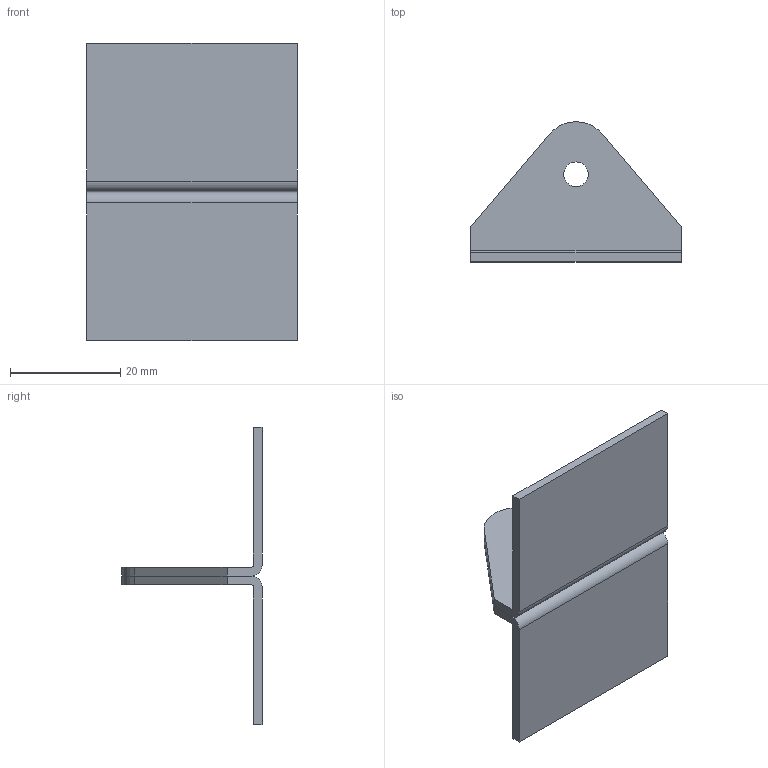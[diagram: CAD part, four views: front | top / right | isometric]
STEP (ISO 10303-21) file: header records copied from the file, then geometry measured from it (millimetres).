
FILE_DESCRIPTION (( 'STEP AP214' ), '1' );
FILE_NAME ('DRP-002-0112-00.STEP', '2010-08-12T17:30:09', ( '' ), ( '' ), 'SwSTEP 2.0', 'SolidWorks 2010', '' );
FILE_SCHEMA (( 'AUTOMOTIVE_DESIGN' ));
Length unit declared in the file: inch
Products named in the file (1): DRP-002-0112-00
Bounding box: 38.1 x 25.4 x 53.85 mm (x, y, z)
Volume: 5043.7 mm3; surface area: 6892.8 mm2
Topology: 2 solids, 2 shells, 28 faces, 72 edges, 48 vertices
Faces by surface type: plane 18, cylinder 10
Entity records: 915 total; most frequent: DIRECTION 150, CARTESIAN_POINT 149, ORIENTED_EDGE 144, EDGE_CURVE 72, VECTOR 52, LINE 52, AXIS2_PLACEMENT_3D 49, VERTEX_POINT 48
